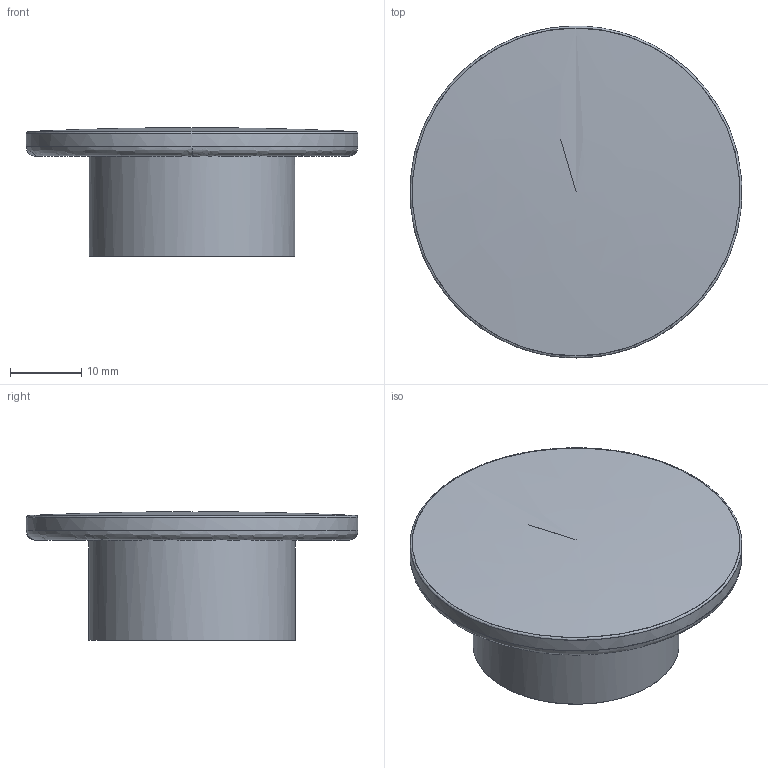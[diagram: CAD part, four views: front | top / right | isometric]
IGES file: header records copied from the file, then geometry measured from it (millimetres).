
Start section: C
Global section: file name: E2493-47.igs; native system: By Siemens PLM Incorporated; preprocessor: XPlus GENERIC/IGES 16.0.42; author: Author; organization: Title; date: 20220303.101356; units: millimetre
Bounding box: 46.63 x 46.7 x 18.1 mm (x, y, z)
Surface area: 7046.5 mm2 (no closed solid volume)
Topology: 0 solids, 0 shells, 13 faces, 72 edges, 70 vertices
Faces by surface type: bspline 13
